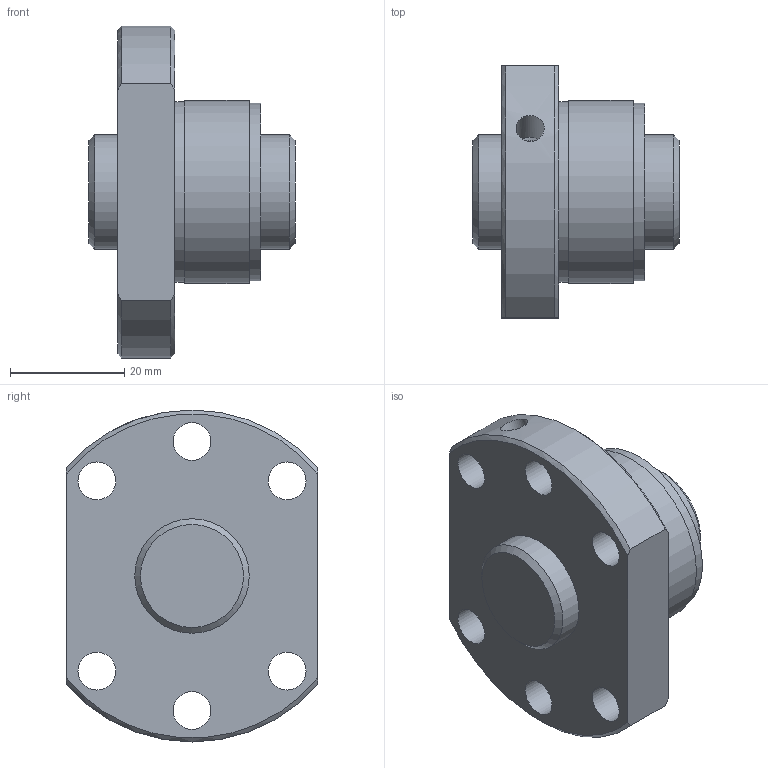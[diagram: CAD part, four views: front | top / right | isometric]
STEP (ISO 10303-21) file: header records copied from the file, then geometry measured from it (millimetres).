
FILE_DESCRIPTION(/* description */ ('STEP AP203'),/* implementation_level */ '2;1');
FILE_NAME(/* name */ 'SDA2004V-4G0+36LC0(0G000)',/* time_stamp */ '2024-05-28T11:29:48+02:00',/* author */ ('License CC BY-ND 4.0'),/* organization */ ('CADENAS'),/* preprocessor_version */ 'ST-DEVELOPER v19.3',/* originating_system */ 'PARTsolutions',/* authorisation */ ' ');
FILE_SCHEMA (('CONFIG_CONTROL_DESIGN'));
Length unit declared in the file: millimetre
Products named in the file (3): SDA2004V-4G0+36LC0(0G000); 000SDA2004V-40Shaft; SDA-V serieSDA2004V-4nut
Assembly tree (2 placements, depth 2):
  SDA2004V-4G0+36LC0(0G000)
    000SDA2004V-40Shaft
    SDA-V serieSDA2004V-4nut
Bounding box: 36 x 44 x 58 mm (x, y, z)
Volume: 35724.5 mm3; surface area: 12598.1 mm2
Topology: 2 solids, 2 shells, 31 faces, 74 edges, 50 vertices
Faces by surface type: cylinder 15, plane 9, cone 7
Full cylindrical faces by diameter (mm): 3.9 x1, 4.917 x1, 6.6 x6, 20 x2, 31 x1, 31.6 x1, 32 x1
Entity records: 915 total; most frequent: CARTESIAN_POINT 174, DIRECTION 144, ORIENTED_EDGE 104, AXIS2_PLACEMENT_3D 68, EDGE_LOOP 66, FACE_BOUND 66, EDGE_CURVE 52, VERTEX_POINT 44
